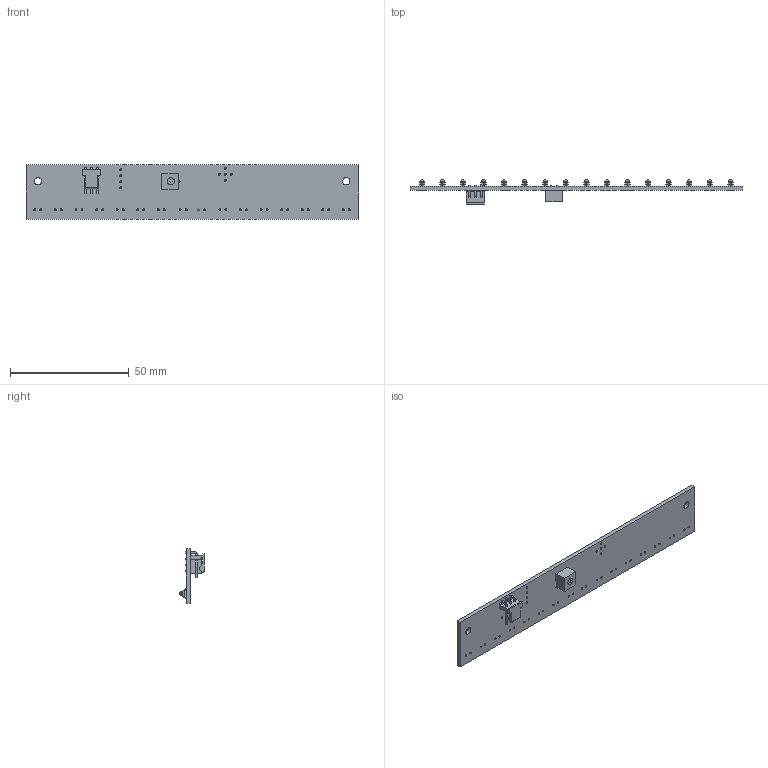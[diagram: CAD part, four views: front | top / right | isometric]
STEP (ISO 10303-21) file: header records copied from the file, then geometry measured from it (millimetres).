
FILE_DESCRIPTION(/* description */ (''),/* implementation_level */ '2;1');
FILE_NAME(/* name */ 'C:\Users\Andrea\SynologyDrive\Optoscan\Libreria Componenti\EOS\01 - Barriere EOS\EOS 140\Eos_4-140\Esportazioni\EOS 4-140 SE1p MPe_TX.stp',/* time_stamp */ '2024-05-07T10:51:57+02:00',/* author */ ('Andrea'),/* organization */ (''),/* preprocessor_version */ 'ST-DEVELOPER v19',/* originating_system */ 'Autodesk Inventor 2023',/* authorisation */ '');
FILE_SCHEMA (('AUTOMOTIVE_DESIGN { 1 0 10303 214 3 1 1 }'));
Length unit declared in the file: millimetre
Products named in the file (1): EOS 4-140 SE1p MPe_TX_Semplifica_1
Bounding box: 139.98 x 10.32 x 22.99 mm (x, y, z)
Volume: 5762.6 mm3; surface area: 8089.8 mm2
Topology: 1 solids, 1 shells, 1152 faces, 3063 edges, 2012 vertices
Faces by surface type: plane 897, cylinder 223, sphere 16, cone 16
Full cylindrical faces by diameter (mm): 0.46 x3, 0.8 x49, 1.8 x16, 3.1 x2
Entity records: 36916 total; most frequent: CARTESIAN_POINT 6228, ORIENTED_EDGE 6126, DIRECTION 5837, EDGE_CURVE 3063, LINE 2595, VECTOR 2595, VERTEX_POINT 2012, AXIS2_PLACEMENT_3D 1621
